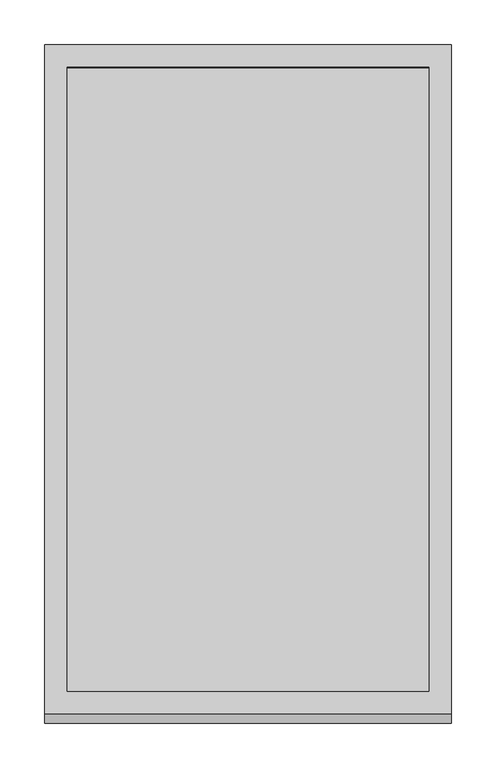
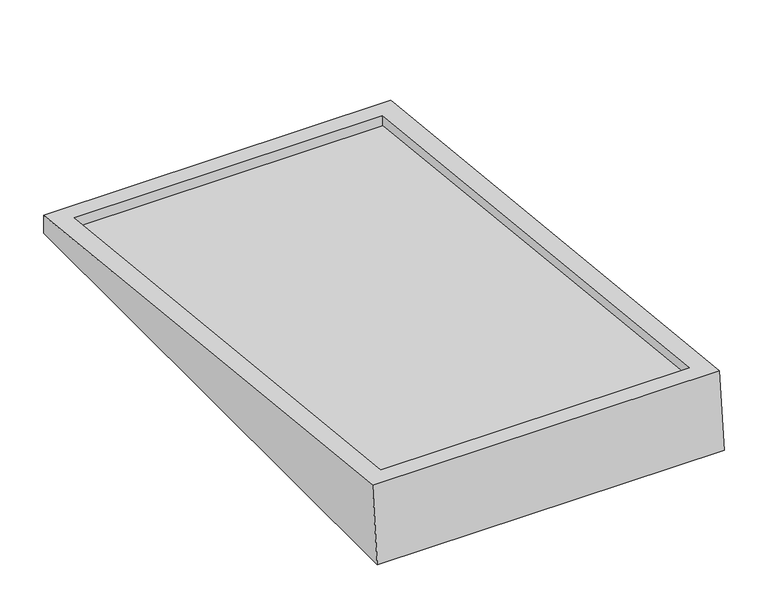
"""IFC4 building model written with IfcOpenShell, lengths in millimetres: proxy geometry, Bradley-Washroom_Accessories-Mirrors-740_Custom : Bradley-Washroom_Accessories-Mirrors-740_Custom."""

from ifc_helpers import new_model, si_unit, origin, place, context, project, spatial, faceted_brep, source, transform, mapped, element, save


def specialty_equipment_28a0cf3e(model_context):
    return source(origin(), model_context, "Body", "Brep", [
        faceted_brep([(228.6, 381.0, 0.0), (228.6, 381.0, 25.4), (228.6, -370.0337574, 104.3368287), (228.6, -381.0, 0.0), (-228.6, 381.0, 0.0), (-228.6, -381.0, 0.0), (-228.6, -370.0337574, 104.3368287), (-228.6, 381.0, 25.4), (-203.2, 355.7391439, 28.055023), (203.2, 355.7391439, 28.055023), (203.2, -344.7729013, 101.6818058), (-203.2, -344.7729013, 101.6818058), (-203.2, 354.4116324, 15.4245949), (-203.2, -346.1004127, 89.0513777), (203.2, -346.1004127, 89.0513777), (203.2, 354.4116324, 15.4245949)], [[[0, 1, 2, 3]], [[4, 5, 6, 7]], [[3, 5, 4, 0]], [[2, 6, 5, 3]], [[1, 7, 6, 2], [8, 9, 10, 11]], [[0, 4, 7, 1]], [[12, 13, 14, 15]], [[12, 8, 11, 13]], [[13, 11, 10, 14]], [[14, 10, 9, 15]], [[15, 9, 8, 12]]]),
    ])


if __name__ == "__main__":
    model = new_model("IFC4")
    model_context = context("Model", 3, world=origin())
    ifc_project = project(units=[si_unit("LENGTHUNIT", "METRE", prefix="MILLI")], contexts=[model_context])
    site = spatial("IfcSite", under=ifc_project)
    building = spatial("IfcBuilding", under=site)
    placement = place(None, origin())
    specialty_equipment_shape = specialty_equipment_28a0cf3e(model_context)
    element("IfcBuildingElementProxy", 1, Name="Bradley-Washroom_Accessories-Mirrors-740_Custom : Bradley-Washroom_Accessories-Mirrors-740_Custom", ObjectType="Bradley-Washroom_Accessories-Mirrors-740_Custom : Bradley-Washroom_Accessories-Mirrors-740_Custom", at=placement, inside=building, context=model_context, shape_type="MappedRepresentation", body=[
        mapped(specialty_equipment_shape, transform((0.0, 0.0, 0.0), x_axis=(1.0, 0.0, 0.0), y_axis=(0.0, 1.0, 0.0), z_axis=(0.0, 0.0, 1.0))),
    ])
    save(model, "model.ifc")
